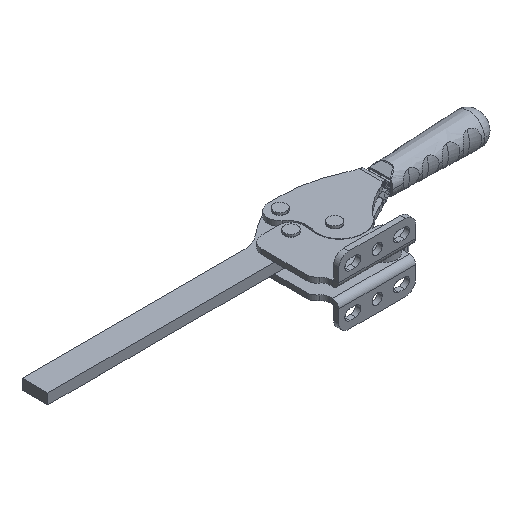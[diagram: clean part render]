
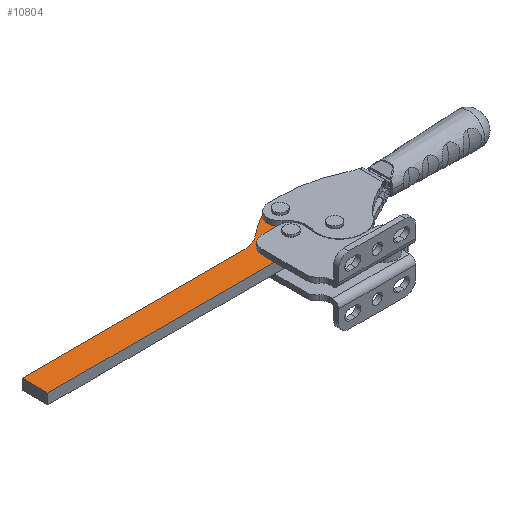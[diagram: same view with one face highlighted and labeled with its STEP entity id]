
A CAD part, isometric view. The second image highlights one B-rep face of the part: STEP entity #10804.
In plain terms, the highlighted planar face has unit normal (0, 0, 1).
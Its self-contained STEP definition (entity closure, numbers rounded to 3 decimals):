
#19 = CARTESIAN_POINT ( 'NONE',  ( 0., 0., 17. ) ) ;
#69 = VERTEX_POINT ( 'NONE', #9421 ) ;
#107 = FACE_OUTER_BOUND ( 'NONE', #11421, .T. ) ;
#135 = DIRECTION ( 'NONE',  ( 0., 0., 1. ) ) ;
#283 = ORIENTED_EDGE ( 'NONE', *, *, #7612, .T. ) ;
#325 = AXIS2_PLACEMENT_3D ( 'NONE', #8232, #12542, #11437 ) ;
#544 = CARTESIAN_POINT ( 'NONE',  ( -32.73, 13.198, 17. ) ) ;
#914 = DIRECTION ( 'NONE',  ( 0., 0., 1. ) ) ;
#1237 = CARTESIAN_POINT ( 'NONE',  ( 7.797, 34.418, 17. ) ) ;
#1400 = FACE_BOUND ( 'NONE', #11786, .T. ) ;
#1483 = FACE_BOUND ( 'NONE', #7650, .T. ) ;
#1533 = EDGE_CURVE ( 'NONE', #9867, #7168, #9148, .T. ) ;
#1858 = CIRCLE ( 'NONE', #12161, 6. ) ;
#2162 = AXIS2_PLACEMENT_3D ( 'NONE', #11926, #14676, #11825 ) ;
#2199 = CARTESIAN_POINT ( 'NONE',  ( 13.057, 23.633, 17. ) ) ;
#2328 = CARTESIAN_POINT ( 'NONE',  ( -32.73, 13.198, 17. ) ) ;
#2706 = CARTESIAN_POINT ( 'NONE',  ( 0., 0., 17. ) ) ;
#2837 = DIRECTION ( 'NONE',  ( 0.484, 0.875, 0. ) ) ;
#3045 = DIRECTION ( 'NONE',  ( 0., 0., 1. ) ) ;
#3112 = VECTOR ( 'NONE', #2837, 1000. ) ;
#3588 = EDGE_CURVE ( 'NONE', #14973, #13613, #18049, .T. ) ;
#3842 = AXIS2_PLACEMENT_3D ( 'NONE', #8561, #4413, #5978 ) ;
#3849 = VECTOR ( 'NONE', #10711, 1000. ) ;
#3930 = EDGE_CURVE ( 'NONE', #5097, #9867, #17173, .T. ) ;
#3978 = CIRCLE ( 'NONE', #11033, 12. ) ;
#4356 = VERTEX_POINT ( 'NONE', #4524 ) ;
#4377 = CARTESIAN_POINT ( 'NONE',  ( -249.089, -12., 17. ) ) ;
#4413 = DIRECTION ( 'NONE',  ( 0., 0., -1. ) ) ;
#4524 = CARTESIAN_POINT ( 'NONE',  ( 23.561, 17.83, 17. ) ) ;
#4559 = AXIS2_PLACEMENT_3D ( 'NONE', #5894, #5805, #11414 ) ;
#4958 = ORIENTED_EDGE ( 'NONE', *, *, #6504, .T. ) ;
#5097 = VERTEX_POINT ( 'NONE', #1237 ) ;
#5629 = CIRCLE ( 'NONE', #7989, 12. ) ;
#5740 = DIRECTION ( 'NONE',  ( 1., 0., 0. ) ) ;
#5792 = CARTESIAN_POINT ( 'NONE',  ( 0., -12., 17. ) ) ;
#5805 = DIRECTION ( 'NONE',  ( 0., 0., 1. ) ) ;
#5894 = CARTESIAN_POINT ( 'NONE',  ( 0., 0., 17. ) ) ;
#5978 = DIRECTION ( 'NONE',  ( 1., 0., 0. ) ) ;
#6504 = EDGE_CURVE ( 'NONE', #7168, #69, #7960, .T. ) ;
#6538 = DIRECTION ( 'NONE',  ( 1., 0., 0. ) ) ;
#6655 = ORIENTED_EDGE ( 'NONE', *, *, #11267, .F. ) ;
#6670 = EDGE_CURVE ( 'NONE', #13613, #14973, #16207, .T. ) ;
#6871 = DIRECTION ( 'NONE',  ( 0., 0., 1. ) ) ;
#6990 = VERTEX_POINT ( 'NONE', #16122 ) ;
#7168 = VERTEX_POINT ( 'NONE', #544 ) ;
#7381 = CARTESIAN_POINT ( 'NONE',  ( 7.057, 23.633, 17. ) ) ;
#7508 = ORIENTED_EDGE ( 'NONE', *, *, #3930, .T. ) ;
#7612 = EDGE_CURVE ( 'NONE', #4356, #5097, #5629, .T. ) ;
#7650 = EDGE_LOOP ( 'NONE', ( #8398, #8796 ) ) ;
#7736 = VERTEX_POINT ( 'NONE', #4377 ) ;
#7960 = LINE ( 'NONE', #2328, #3849 ) ;
#7989 = AXIS2_PLACEMENT_3D ( 'NONE', #2199, #914, #6538 ) ;
#8232 = CARTESIAN_POINT ( 'NONE',  ( 13.057, 23.633, 17. ) ) ;
#8398 = ORIENTED_EDGE ( 'NONE', *, *, #8860, .F. ) ;
#8561 = CARTESIAN_POINT ( 'NONE',  ( -32.995, 41.196, 17. ) ) ;
#8796 = ORIENTED_EDGE ( 'NONE', *, *, #13860, .F. ) ;
#8860 = EDGE_CURVE ( 'NONE', #17779, #15154, #1858, .T. ) ;
#8983 = CIRCLE ( 'NONE', #4559, 6. ) ;
#9148 = CIRCLE ( 'NONE', #3842, 28. ) ;
#9233 = AXIS2_PLACEMENT_3D ( 'NONE', #9783, #10054, #5740 ) ;
#9236 = CARTESIAN_POINT ( 'NONE',  ( -149.089, -12., 17. ) ) ;
#9421 = CARTESIAN_POINT ( 'NONE',  ( -249.089, 13.198, 17. ) ) ;
#9783 = CARTESIAN_POINT ( 'NONE',  ( 58.21, -68.943, 17. ) ) ;
#9867 = VERTEX_POINT ( 'NONE', #12663 ) ;
#9957 = DIRECTION ( 'NONE',  ( 1., 0., 0. ) ) ;
#10054 = DIRECTION ( 'NONE',  ( 0., 0., 1. ) ) ;
#10063 = ORIENTED_EDGE ( 'NONE', *, *, #1533, .T. ) ;
#10432 = DIRECTION ( 'NONE',  ( 1., 0., 0. ) ) ;
#10654 = ORIENTED_EDGE ( 'NONE', *, *, #6670, .F. ) ;
#10711 = DIRECTION ( 'NONE',  ( -1., 0., 0. ) ) ;
#10804 = ADVANCED_FACE ( 'NONE', ( #1400, #107, #1483 ), #16963, .T. ) ;
#10832 = DIRECTION ( 'NONE',  ( 1., 0., 0. ) ) ;
#11033 = AXIS2_PLACEMENT_3D ( 'NONE', #2706, #135, #12731 ) ;
#11171 = VECTOR ( 'NONE', #10432, 1000. ) ;
#11267 = EDGE_CURVE ( 'NONE', #7736, #69, #11686, .T. ) ;
#11332 = CARTESIAN_POINT ( 'NONE',  ( 19.057, 23.633, 17. ) ) ;
#11414 = DIRECTION ( 'NONE',  ( 1., 0., 0. ) ) ;
#11421 = EDGE_LOOP ( 'NONE', ( #14706, #17701, #283, #7508, #10063, #4958, #6655, #12587 ) ) ;
#11437 = DIRECTION ( 'NONE',  ( 1., 0., 0. ) ) ;
#11686 = LINE ( 'NONE', #14530, #14886 ) ;
#11786 = EDGE_LOOP ( 'NONE', ( #10654, #13502 ) ) ;
#11825 = DIRECTION ( 'NONE',  ( 1., 0., 0. ) ) ;
#11898 = EDGE_CURVE ( 'NONE', #15440, #6990, #3978, .T. ) ;
#11926 = CARTESIAN_POINT ( 'NONE',  ( 13.057, 23.633, 17. ) ) ;
#12161 = AXIS2_PLACEMENT_3D ( 'NONE', #16454, #6871, #10832 ) ;
#12542 = DIRECTION ( 'NONE',  ( 0., 0., 1. ) ) ;
#12587 = ORIENTED_EDGE ( 'NONE', *, *, #17698, .T. ) ;
#12663 = CARTESIAN_POINT ( 'NONE',  ( -15.12, 19.645, 17. ) ) ;
#12731 = DIRECTION ( 'NONE',  ( 1., 0., 0. ) ) ;
#12770 = CARTESIAN_POINT ( 'NONE',  ( 10.503, -5.803, 17. ) ) ;
#13502 = ORIENTED_EDGE ( 'NONE', *, *, #3588, .F. ) ;
#13613 = VERTEX_POINT ( 'NONE', #7381 ) ;
#13860 = EDGE_CURVE ( 'NONE', #15154, #17779, #8983, .T. ) ;
#14530 = CARTESIAN_POINT ( 'NONE',  ( -249.089, -12., 17. ) ) ;
#14676 = DIRECTION ( 'NONE',  ( 0., 0., 1. ) ) ;
#14706 = ORIENTED_EDGE ( 'NONE', *, *, #11898, .T. ) ;
#14818 = CARTESIAN_POINT ( 'NONE',  ( 6., 0., 17. ) ) ;
#14886 = VECTOR ( 'NONE', #17491, 1000. ) ;
#14973 = VERTEX_POINT ( 'NONE', #11332 ) ;
#15154 = VERTEX_POINT ( 'NONE', #14818 ) ;
#15169 = AXIS2_PLACEMENT_3D ( 'NONE', #19, #3045, #9957 ) ;
#15428 = EDGE_CURVE ( 'NONE', #6990, #4356, #15435, .T. ) ;
#15435 = LINE ( 'NONE', #12770, #3112 ) ;
#15440 = VERTEX_POINT ( 'NONE', #5792 ) ;
#16122 = CARTESIAN_POINT ( 'NONE',  ( 10.503, -5.803, 17. ) ) ;
#16207 = CIRCLE ( 'NONE', #325, 6. ) ;
#16454 = CARTESIAN_POINT ( 'NONE',  ( 0., 0., 17. ) ) ;
#16566 = LINE ( 'NONE', #9236, #11171 ) ;
#16940 = CARTESIAN_POINT ( 'NONE',  ( -6., 0., 17. ) ) ;
#16963 = PLANE ( 'NONE',  #15169 ) ;
#17173 = CIRCLE ( 'NONE', #9233, 115. ) ;
#17491 = DIRECTION ( 'NONE',  ( 0., 1., 0. ) ) ;
#17698 = EDGE_CURVE ( 'NONE', #7736, #15440, #16566, .T. ) ;
#17701 = ORIENTED_EDGE ( 'NONE', *, *, #15428, .T. ) ;
#17779 = VERTEX_POINT ( 'NONE', #16940 ) ;
#18049 = CIRCLE ( 'NONE', #2162, 6. ) ;
